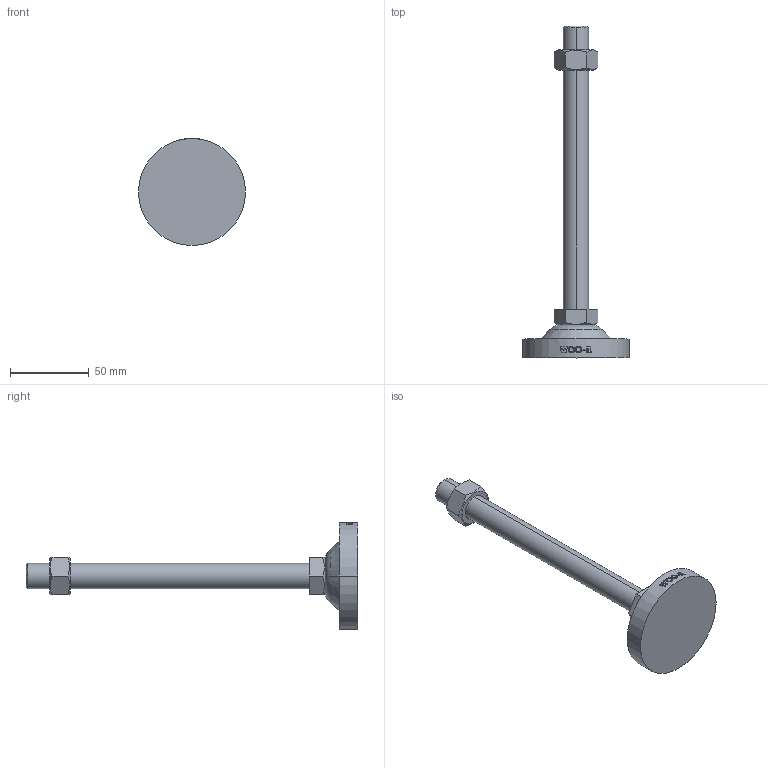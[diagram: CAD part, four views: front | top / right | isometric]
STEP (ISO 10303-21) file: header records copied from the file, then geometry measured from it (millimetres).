
FILE_DESCRIPTION (( 'STEP AP214' ), '1' );
FILE_NAME ('RB68-M16-180.step', '2021-01-18T05:50:51', ( '' ), ( '' ), 'SwSTEP 2.0', 'SolidWorks 2019', '' );
FILE_SCHEMA (( 'AUTOMOTIVE_DESIGN' ));
Length unit declared in the file: millimetre
Products named in the file (2): RB68-M16-180
Bounding box: 68 x 211 x 68 mm (x, y, z)
Volume: 93139.9 mm3; surface area: 25069.3 mm2
Topology: 2 solids, 3 shells, 128 faces, 317 edges, 206 vertices
Faces by surface type: plane 48, cylinder 42, bspline 18, cone 16, torus 4
Entity records: 5349 total; most frequent: CARTESIAN_POINT 2507, ORIENTED_EDGE 634, DIRECTION 479, EDGE_CURVE 317, VERTEX_POINT 206, AXIS2_PLACEMENT_3D 176, EDGE_LOOP 141, FACE_OUTER_BOUND 128
